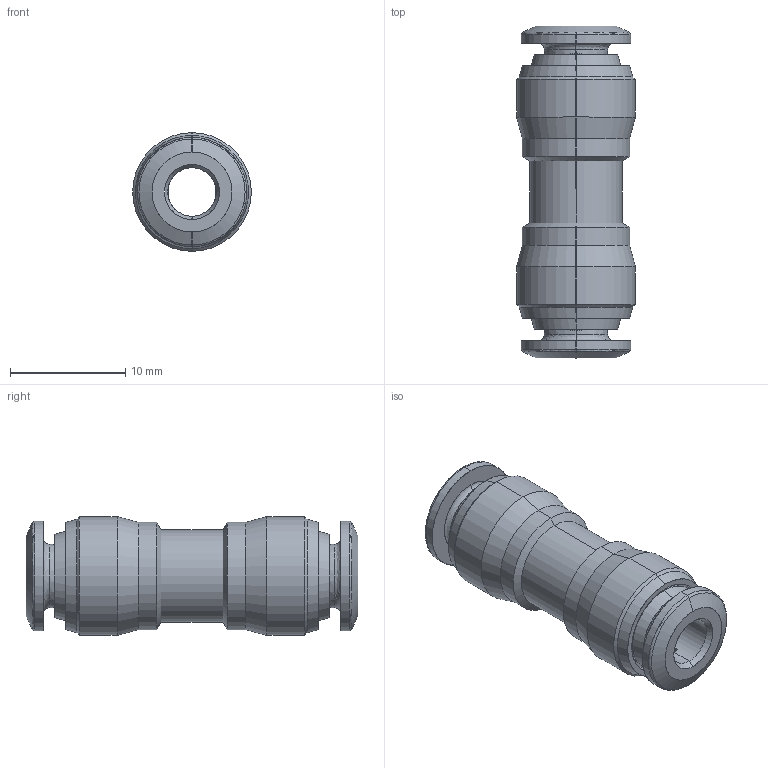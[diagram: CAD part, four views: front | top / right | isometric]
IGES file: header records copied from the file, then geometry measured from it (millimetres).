
Start section: SolidWorks IGES file using analytic representation for surfaces
Global section: file name: C:\Users\cad06\Desktop\Nuova cartella\40040V0001A.IGS; native system: SolidWorks 2016; preprocessor: SolidWorks 2016; author: cad06; date: 160516.151337; units: millimetre
Bounding box: 10.3 x 28.8 x 10.3 mm (x, y, z)
Surface area: 1467.3 mm2 (no closed solid volume)
Topology: 0 solids, 0 shells, 88 faces, 1008 edges, 1008 vertices
Faces by surface type: revolution 62, bspline 26
